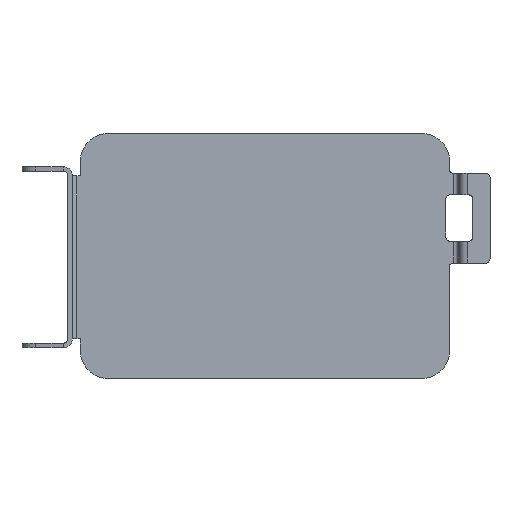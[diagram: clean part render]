
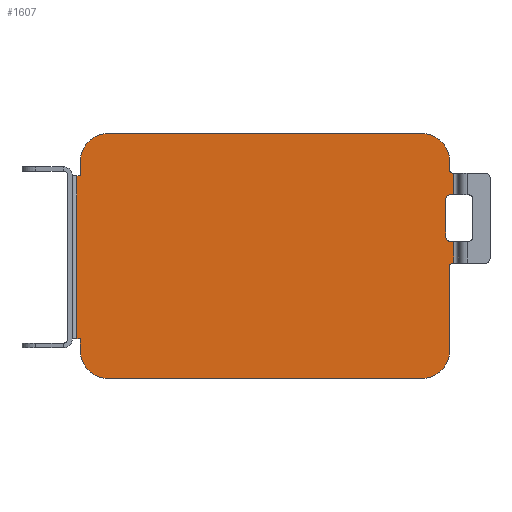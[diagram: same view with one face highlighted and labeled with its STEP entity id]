
A CAD part, top view. The second image highlights one B-rep face of the part: STEP entity #1607.
In plain terms, the highlighted planar face has unit normal (0, 0, 1).
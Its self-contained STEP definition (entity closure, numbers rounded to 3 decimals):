
#379=DIRECTION('',(0.,1.,0.));
#380=VECTOR('',#379,21.);
#381=CARTESIAN_POINT('',(103.,91.,1.25));
#382=LINE('',#381,#380);
#383=DIRECTION('',(-1.,0.,0.));
#384=VECTOR('',#383,2.);
#385=CARTESIAN_POINT('',(107.5,88.5,1.25));
#386=LINE('',#385,#384);
#387=DIRECTION('',(0.,-1.,0.));
#388=VECTOR('',#387,12.);
#389=CARTESIAN_POINT('',(107.5,88.5,1.25));
#390=LINE('',#389,#388);
#391=DIRECTION('',(1.,0.,0.));
#392=VECTOR('',#391,0.5);
#393=CARTESIAN_POINT('',(107.,76.5,1.25));
#394=LINE('',#393,#392);
#395=DIRECTION('',(0.,1.,0.));
#396=VECTOR('',#395,47.);
#397=CARTESIAN_POINT('',(105.,27.5,1.25));
#398=LINE('',#397,#396);
#399=CARTESIAN_POINT('',(90.,27.5,1.25));
#400=DIRECTION('',(0.,0.,1.));
#401=DIRECTION('',(0.,-1.,0.));
#402=AXIS2_PLACEMENT_3D('',#399,#400,#401);
#404=DIRECTION('',(1.,0.,0.));
#405=VECTOR('',#404,175.);
#406=CARTESIAN_POINT('',(-85.,12.5,1.25));
#407=LINE('',#406,#405);
#408=CARTESIAN_POINT('',(-85.,27.5,1.25));
#409=DIRECTION('',(0.,0.,1.));
#410=DIRECTION('',(-1.,0.,0.));
#411=AXIS2_PLACEMENT_3D('',#408,#409,#410);
#413=DIRECTION('',(0.,-1.,0.));
#414=VECTOR('',#413,7.);
#415=CARTESIAN_POINT('',(-100.,34.5,1.25));
#416=LINE('',#415,#414);
#417=DIRECTION('',(1.,0.,0.));
#418=VECTOR('',#417,2.);
#419=CARTESIAN_POINT('',(-102.,34.5,1.25));
#420=LINE('',#419,#418);
#421=DIRECTION('',(0.,1.,0.));
#422=VECTOR('',#421,90.5);
#423=CARTESIAN_POINT('',(-102.,34.5,1.25));
#424=LINE('',#423,#422);
#425=DIRECTION('',(-1.,0.,0.));
#426=VECTOR('',#425,2.);
#427=CARTESIAN_POINT('',(-100.,125.,1.25));
#428=LINE('',#427,#426);
#429=DIRECTION('',(0.,-1.,0.));
#430=VECTOR('',#429,8.5);
#431=CARTESIAN_POINT('',(-100.,133.5,1.25));
#432=LINE('',#431,#430);
#433=CARTESIAN_POINT('',(-85.,133.5,1.25));
#434=DIRECTION('',(0.,0.,1.));
#435=DIRECTION('',(0.,1.,0.));
#436=AXIS2_PLACEMENT_3D('',#433,#434,#435);
#438=DIRECTION('',(1.,0.,0.));
#439=VECTOR('',#438,175.);
#440=CARTESIAN_POINT('',(-85.,148.5,1.25));
#441=LINE('',#440,#439);
#442=CARTESIAN_POINT('',(90.,133.5,1.25));
#443=DIRECTION('',(0.,0.,1.));
#444=DIRECTION('',(1.,0.,0.));
#445=AXIS2_PLACEMENT_3D('',#442,#443,#444);
#447=DIRECTION('',(0.,1.,0.));
#448=VECTOR('',#447,5.);
#449=CARTESIAN_POINT('',(105.,128.5,1.25));
#450=LINE('',#449,#448);
#451=DIRECTION('',(-1.,0.,0.));
#452=VECTOR('',#451,0.5);
#453=CARTESIAN_POINT('',(107.5,126.5,1.25));
#454=LINE('',#453,#452);
#455=DIRECTION('',(0.,-1.,0.));
#456=VECTOR('',#455,12.);
#457=CARTESIAN_POINT('',(107.5,126.5,1.25));
#458=LINE('',#457,#456);
#459=DIRECTION('',(-1.,0.,0.));
#460=VECTOR('',#459,2.);
#461=CARTESIAN_POINT('',(107.5,114.5,1.25));
#462=LINE('',#461,#460);
#476=CARTESIAN_POINT('',(105.5,112.,1.25));
#477=DIRECTION('',(0.,0.,-1.));
#478=DIRECTION('',(-1.,0.,0.));
#479=AXIS2_PLACEMENT_3D('',#476,#477,#478);
#486=CARTESIAN_POINT('',(105.5,91.,1.25));
#487=DIRECTION('',(0.,0.,-1.));
#488=DIRECTION('',(0.,-1.,0.));
#489=AXIS2_PLACEMENT_3D('',#486,#487,#488);
#521=CARTESIAN_POINT('',(107.,74.5,1.25));
#522=DIRECTION('',(0.,0.,-1.));
#523=DIRECTION('',(-1.,0.,0.));
#524=AXIS2_PLACEMENT_3D('',#521,#522,#523);
#860=CARTESIAN_POINT('',(107.,128.5,1.25));
#861=DIRECTION('',(0.,0.,-1.));
#862=DIRECTION('',(0.,-1.,0.));
#863=AXIS2_PLACEMENT_3D('',#860,#861,#862);
#869=CARTESIAN_POINT('',(90.,12.5,1.25));
#870=VERTEX_POINT('',#869);
#871=CARTESIAN_POINT('',(105.,27.5,1.25));
#872=VERTEX_POINT('',#871);
#875=CARTESIAN_POINT('',(-85.,12.5,1.25));
#876=VERTEX_POINT('',#875);
#879=CARTESIAN_POINT('',(-100.,27.5,1.25));
#880=VERTEX_POINT('',#879);
#882=CARTESIAN_POINT('',(-100.,125.,1.25));
#884=VERTEX_POINT('',#882);
#886=CARTESIAN_POINT('',(-100.,34.5,1.25));
#888=VERTEX_POINT('',#886);
#889=CARTESIAN_POINT('',(-102.,34.5,1.25));
#890=CARTESIAN_POINT('',(-102.,125.,1.25));
#891=VERTEX_POINT('',#889);
#892=VERTEX_POINT('',#890);
#969=CARTESIAN_POINT('',(105.,74.5,1.25));
#970=VERTEX_POINT('',#969);
#971=CARTESIAN_POINT('',(107.5,126.5,1.25));
#973=VERTEX_POINT('',#971);
#976=CARTESIAN_POINT('',(107.5,76.5,1.25));
#978=VERTEX_POINT('',#976);
#1009=CARTESIAN_POINT('',(107.,76.5,1.25));
#1010=VERTEX_POINT('',#1009);
#1011=CARTESIAN_POINT('',(107.,126.5,1.25));
#1012=VERTEX_POINT('',#1011);
#1016=CARTESIAN_POINT('',(105.,128.5,1.25));
#1018=VERTEX_POINT('',#1016);
#1033=CARTESIAN_POINT('',(107.5,114.5,1.25));
#1034=VERTEX_POINT('',#1033);
#1035=CARTESIAN_POINT('',(107.5,88.5,1.25));
#1036=VERTEX_POINT('',#1035);
#1082=CARTESIAN_POINT('',(105.5,114.5,1.25));
#1084=VERTEX_POINT('',#1082);
#1086=CARTESIAN_POINT('',(103.,112.,1.25));
#1088=VERTEX_POINT('',#1086);
#1090=CARTESIAN_POINT('',(103.,91.,1.25));
#1092=VERTEX_POINT('',#1090);
#1094=CARTESIAN_POINT('',(105.5,88.5,1.25));
#1096=VERTEX_POINT('',#1094);
#1101=CARTESIAN_POINT('',(-85.,148.5,1.25));
#1102=VERTEX_POINT('',#1101);
#1103=CARTESIAN_POINT('',(-100.,133.5,1.25));
#1104=VERTEX_POINT('',#1103);
#1105=CARTESIAN_POINT('',(105.,133.5,1.25));
#1106=CARTESIAN_POINT('',(90.,148.5,1.25));
#1107=VERTEX_POINT('',#1105);
#1108=VERTEX_POINT('',#1106);
#1557=CARTESIAN_POINT('',(0.,0.,1.25));
#1558=DIRECTION('',(0.,0.,1.));
#1559=DIRECTION('',(1.,0.,0.));
#1560=AXIS2_PLACEMENT_3D('',#1557,#1558,#1559);
#1561=PLANE('',#1560);
#1563=ORIENTED_EDGE('',*,*,#1562,.F.);
#1565=ORIENTED_EDGE('',*,*,#1564,.F.);
#1566=ORIENTED_EDGE('',*,*,#1184,.F.);
#1567=ORIENTED_EDGE('',*,*,#1548,.T.);
#1569=ORIENTED_EDGE('',*,*,#1568,.F.);
#1571=ORIENTED_EDGE('',*,*,#1570,.F.);
#1573=ORIENTED_EDGE('',*,*,#1572,.F.);
#1575=ORIENTED_EDGE('',*,*,#1574,.F.);
#1577=ORIENTED_EDGE('',*,*,#1576,.F.);
#1579=ORIENTED_EDGE('',*,*,#1578,.F.);
#1581=ORIENTED_EDGE('',*,*,#1580,.F.);
#1583=ORIENTED_EDGE('',*,*,#1582,.F.);
#1585=ORIENTED_EDGE('',*,*,#1584,.T.);
#1587=ORIENTED_EDGE('',*,*,#1586,.F.);
#1589=ORIENTED_EDGE('',*,*,#1588,.F.);
#1591=ORIENTED_EDGE('',*,*,#1590,.F.);
#1593=ORIENTED_EDGE('',*,*,#1592,.T.);
#1595=ORIENTED_EDGE('',*,*,#1594,.F.);
#1597=ORIENTED_EDGE('',*,*,#1596,.F.);
#1599=ORIENTED_EDGE('',*,*,#1598,.F.);
#1600=ORIENTED_EDGE('',*,*,#1403,.F.);
#1601=ORIENTED_EDGE('',*,*,#1535,.T.);
#1602=ORIENTED_EDGE('',*,*,#1289,.T.);
#1604=ORIENTED_EDGE('',*,*,#1603,.F.);
#1605=EDGE_LOOP('',(#1563,#1565,#1566,#1567,#1569,#1571,#1573,#1575,#1577,#1579,
#1581,#1583,#1585,#1587,#1589,#1591,#1593,#1595,#1597,#1599,#1600,#1601,#1602,
#1604));
#1606=FACE_OUTER_BOUND('',#1605,.F.);
#403=CIRCLE('',#402,15.);
#412=CIRCLE('',#411,15.);
#437=CIRCLE('',#436,15.);
#446=CIRCLE('',#445,15.);
#480=CIRCLE('',#479,2.5);
#490=CIRCLE('',#489,2.5);
#525=CIRCLE('',#524,2.);
#864=CIRCLE('',#863,2.);
#1184=EDGE_CURVE('',#1036,#1096,#386,.T.);
#1289=EDGE_CURVE('',#1034,#1084,#462,.T.);
#1403=EDGE_CURVE('',#973,#1012,#454,.T.);
#1535=EDGE_CURVE('',#973,#1034,#458,.T.);
#1548=EDGE_CURVE('',#1036,#978,#390,.T.);
#1562=EDGE_CURVE('',#1092,#1088,#382,.T.);
#1564=EDGE_CURVE('',#1096,#1092,#490,.T.);
#1568=EDGE_CURVE('',#1010,#978,#394,.T.);
#1570=EDGE_CURVE('',#970,#1010,#525,.T.);
#1572=EDGE_CURVE('',#872,#970,#398,.T.);
#1574=EDGE_CURVE('',#870,#872,#403,.T.);
#1576=EDGE_CURVE('',#876,#870,#407,.T.);
#1578=EDGE_CURVE('',#880,#876,#412,.T.);
#1580=EDGE_CURVE('',#888,#880,#416,.T.);
#1582=EDGE_CURVE('',#891,#888,#420,.T.);
#1584=EDGE_CURVE('',#891,#892,#424,.T.);
#1586=EDGE_CURVE('',#884,#892,#428,.T.);
#1588=EDGE_CURVE('',#1104,#884,#432,.T.);
#1590=EDGE_CURVE('',#1102,#1104,#437,.T.);
#1592=EDGE_CURVE('',#1102,#1108,#441,.T.);
#1594=EDGE_CURVE('',#1107,#1108,#446,.T.);
#1596=EDGE_CURVE('',#1018,#1107,#450,.T.);
#1598=EDGE_CURVE('',#1012,#1018,#864,.T.);
#1603=EDGE_CURVE('',#1088,#1084,#480,.T.);
#1607=ADVANCED_FACE('',(#1606),#1561,.T.);
